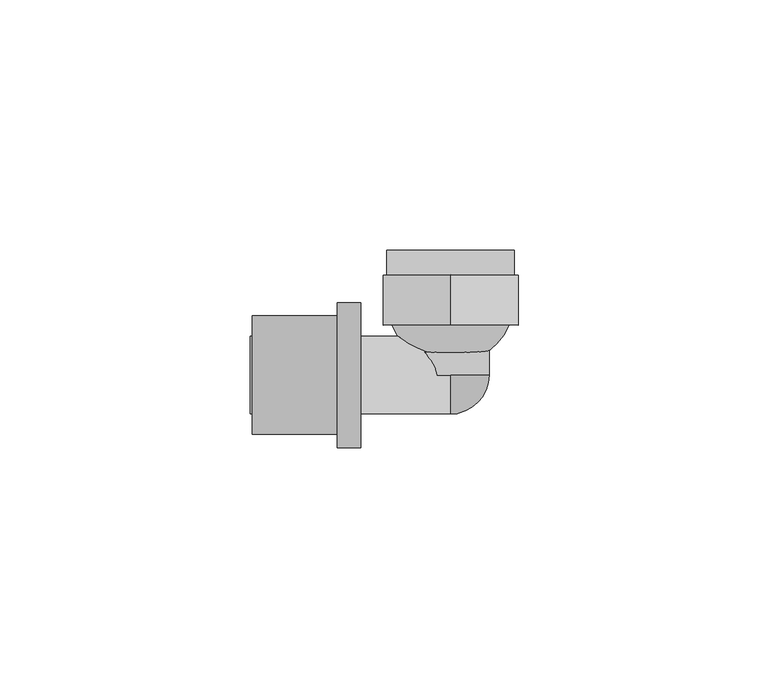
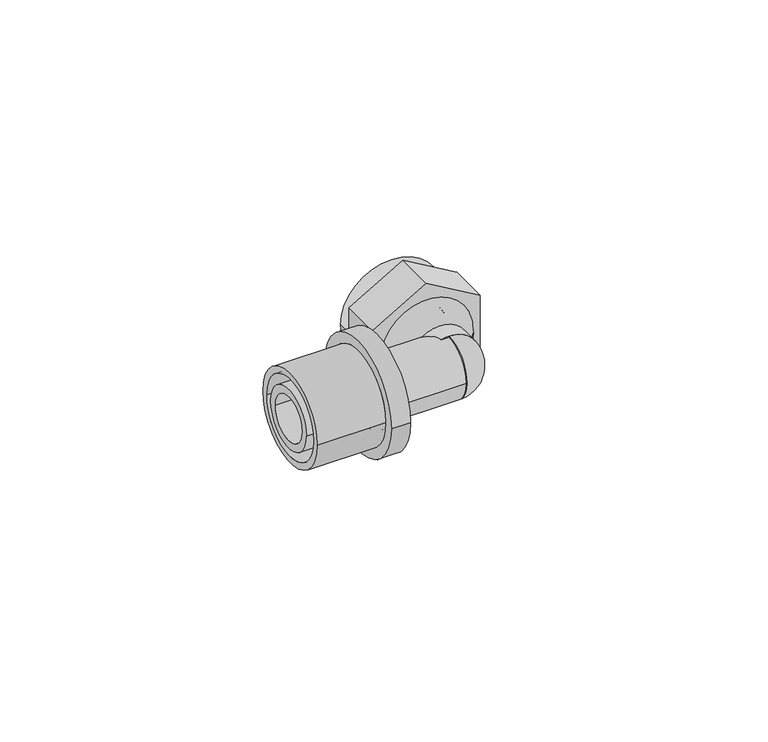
"""IFC4 building model written with IfcOpenShell, lengths in millimetres: pipe fitting geometry, FASTLOC_Elbow with female thread EX+ : FSL A internal AT."""

from ifc_helpers import new_model, si_unit, point, frame, origin, origin_2d, place, context, project, spatial, polyline, circle_curve, ellipse_curve, trimmed, segment, composite_curve, outline, extrude, source, transform, mapped, element, save
from ifc_brep_helpers import plane_surface, cylinder_surface, revolved_surface, advanced_brep


def pipe_fitting_ad4eddfe(model_context):
    return source(origin(), model_context, "Body", "SolidModel", [
        advanced_brep(
        [(-22.7, -14.5, 0.0), (-22.7, 14.5, 0.0), (-18.0, 14.5, 0.0), (-18.0, -14.5, 0.0), (-39.7, -11.85, 0.0), (-39.7, 11.85, 0.0), (-22.7, 11.85, 0.0), (-22.7, -11.85, 0.0), (-18.0, -10.15, 0.0), (-18.0, 10.15, 0.0), (-39.7, 10.15, 0.0), (-39.7, -10.15, 0.0)],
        [
            (0, 1, circle_curve(frame((-22.7, 0.0, 0.0), z_axis=(1.0, 0.0, 0.0), x_axis=(0.0, 1.0, 0.0)), 14.5)),
            (1, 2),
            (2, 3, circle_curve(frame((-18.0, 0.0, 0.0), z_axis=(-1.0, 0.0, 0.0), x_axis=(0.0, 1.0, 0.0)), 14.5)),
            (3, 0),
            (4, 5, circle_curve(frame((-39.7, 0.0, 0.0), z_axis=(1.0, 0.0, 0.0), x_axis=(0.0, 1.0, 0.0)), 11.85)),
            (5, 6),
            (6, 7, circle_curve(frame((-22.7, 0.0, 0.0), z_axis=(-1.0, 0.0, 0.0), x_axis=(0.0, 1.0, 0.0)), 11.85)),
            (7, 4),
            (8, 9, circle_curve(frame((-18.0, 0.0, 0.0), z_axis=(1.0, 0.0, 0.0), x_axis=(0.0, 1.0, 0.0)), 10.15)),
            (9, 10),
            (10, 11, circle_curve(frame((-39.7, 0.0, 0.0), z_axis=(-1.0, 0.0, 0.0), x_axis=(0.0, 1.0, 0.0)), 10.15)),
            (11, 8),
            (1, 0, circle_curve(frame((-22.7, 0.0, 0.0), z_axis=(1.0, 0.0, 0.0), x_axis=(0.0, -1.0, 0.0)), 14.5)),
            (3, 2, circle_curve(frame((-18.0, 0.0, 0.0), z_axis=(-1.0, 0.0, 0.0), x_axis=(0.0, -1.0, 0.0)), 14.5)),
            (6, 7, circle_curve(frame((-22.7, 0.0, 0.0), z_axis=(1.0, 0.0, 0.0), x_axis=(0.0, -1.0, 0.0)), 11.85)),
            (5, 4, circle_curve(frame((-39.7, 0.0, 0.0), z_axis=(1.0, 0.0, 0.0), x_axis=(0.0, -1.0, 0.0)), 11.85)),
            (10, 11, circle_curve(frame((-39.7, 0.0, 0.0), z_axis=(1.0, 0.0, 0.0), x_axis=(0.0, -1.0, 0.0)), 10.15)),
            (9, 8, circle_curve(frame((-18.0, 0.0, 0.0), z_axis=(1.0, 0.0, 0.0), x_axis=(0.0, -1.0, 0.0)), 10.15)),
        ],
        [
            cylinder_surface(frame((-18.0, 0.0, 0.0), z_axis=(-1.0, 0.0, 0.0), x_axis=(0.0, 1.0, 0.0)), 14.5),
            cylinder_surface(frame((-18.0, 0.0, 0.0), z_axis=(-1.0, 0.0, 0.0), x_axis=(0.0, 1.0, 0.0)), 11.85),
            revolved_surface(polyline([(-39.7, 10.15, 0.0), (-18.0, 10.15, 0.0)]), (-18.0, 0.0, 0.0), (-1.0, 0.0, 0.0)),
            cylinder_surface(frame((-18.0, 0.0, 0.0), z_axis=(-1.0, 0.0, 0.0), x_axis=(0.0, -1.0, 0.0)), 14.5),
            plane_surface(frame((-22.7, 0.0, 0.0), z_axis=(-1.0, 0.0, 0.0), x_axis=(0.0, -1.0, 0.0))),
            cylinder_surface(frame((-18.0, 0.0, 0.0), z_axis=(-1.0, 0.0, 0.0), x_axis=(0.0, -1.0, 0.0)), 11.85),
            plane_surface(frame((-39.7, 0.0, 0.0), z_axis=(-1.0, 0.0, 0.0), x_axis=(0.0, -1.0, 0.0))),
            revolved_surface(polyline([(-39.7, -10.15, 0.0), (-18.0, -10.15, 0.0)]), (-18.0, 0.0, 0.0), (-1.0, 0.0, 0.0)),
            plane_surface(frame((-18.0, 0.0, 0.0), z_axis=(1.0, 0.0, 0.0), x_axis=(0.0, -1.0, 0.0))),
        ],
        [
            (0, [[1, 2, 3, 4]]),
            (1, [[5, 6, 7, 8]]),
            (2, [[9, 10, 11, 12]]),
            (3, [[13, -4, 14, -2]]),
            (4, [[-13, -1], [15, -7]]),
            (5, [[16, -8, -15, -6]]),
            (6, [[-16, -5], [17, -11]]),
            (7, [[18, -12, -17, -10]]),
            (8, [[-14, -3], [-18, -9]]),
        ],
    ),
        advanced_brep(
        [(0.0, 0.0, 7.75), (0.0, 0.0, 3.875), (0.0, -3.875, 0.0), (0.0, -7.75, 0.0), (0.0, 0.0, -7.75), (0.0, 0.0, -3.875)],
        [
            (0, 1),
            (1, 2, circle_curve(frame((0.0, 0.0, 0.0), z_axis=(1.0, 0.0, 0.0), x_axis=(0.0, 0.0, 1.0)), 3.875)),
            (2, 3),
            (3, 0, circle_curve(frame((0.0, 0.0, 0.0), z_axis=(-1.0, 0.0, 0.0), x_axis=(0.0, 0.0, 1.0)), 7.75)),
            (4, 3, circle_curve(frame((0.0, 0.0, 0.0), z_axis=(-1.0, 0.0, 0.0), x_axis=(0.0, 0.0, -1.0)), 7.75)),
            (2, 5, circle_curve(frame((0.0, 0.0, 0.0), z_axis=(1.0, 0.0, 0.0), x_axis=(0.0, 0.0, -1.0)), 3.875)),
            (5, 4),
            (5, 1, circle_curve(frame((0.0, 0.0, 0.0), z_axis=(0.0, -1.0, 0.0), x_axis=(0.0, 0.0, 1.0)), 3.875)),
            (0, 4, circle_curve(frame((0.0, 0.0, 0.0), z_axis=(0.0, 1.0, 0.0), x_axis=(0.0, 0.0, 1.0)), 7.75)),
        ],
        [
            plane_surface(frame((0.0, 0.0, 0.0), z_axis=(-1.0, 0.0, 0.0), x_axis=(0.0, 0.0, 1.0))),
            plane_surface(frame((0.0, 0.0, 0.0), z_axis=(-1.0, 0.0, 0.0), x_axis=(0.0, 0.0, -1.0))),
            plane_surface(frame((0.0, 0.0, 0.0), z_axis=(0.0, 1.0, 0.0), x_axis=(0.0, 0.0, 1.0))),
            revolved_surface(trimmed(ellipse_curve(frame((0.0, 0.0, 0.0), z_axis=(1.0, 0.0, 0.0), x_axis=(0.0, 0.0, 1.0)), 3.875, 3.875), [point((0.0, 0.0, 3.875))], [point((0.0, -3.875, 0.0))], True, "CARTESIAN"), (0.0, 0.0, 0.0), (0.0, 1.0, 0.0)),
            revolved_surface(trimmed(ellipse_curve(frame((0.0, 0.0, 0.0), z_axis=(-1.0, 0.0, 0.0), x_axis=(0.0, 0.0, 1.0)), 7.75, 7.75), [point((0.0, -7.75, 0.0))], [point((0.0, 0.0, 7.75))], True, "CARTESIAN"), (0.0, 0.0, 0.0), (0.0, 1.0, 0.0)),
        ],
        [
            (0, [[1, 2, 3, 4]]),
            (1, [[5, -3, 6, 7]]),
            (2, [[8, -1, 9, -7]]),
            (3, [[-2, -8, -6]]),
            (4, [[-9, -4, -5]]),
        ],
    ),
        extrude(outline(polyline([(-7.7942286, 13.5), (7.7942286, 13.5), (15.5884573, 0.0), (7.7942286, -13.5), (-7.7942286, -13.5), (-15.5884573, 0.0), (-7.7942286, 13.5)])), frame((0.0, 10.0, 0.0), z_axis=(0.0, 1.0, 0.0), x_axis=(0.0, 0.0, 1.0)), (0.0, 0.0, 1.0), 10.0),
        advanced_brep(
        [(0.5, 2.2598077, 0.0), (-0.5, 2.2598077, 0.0), (-12.75, 15.0, 0.0), (12.75, 15.0, 0.0), (0.5, 7.5166852, 0.0), (-0.5, 7.5166852, 0.0), (7.5, 15.0, 0.0), (-7.5, 15.0, 0.0), (7.5, 25.0, 0.0), (-7.5, 25.0, 0.0), (-12.75, 25.0, 0.0), (12.75, 25.0, 0.0)],
        [
            (0, 1, circle_curve(frame((0.0, 2.2598077, 0.0), z_axis=(0.0, 1.0, 0.0), x_axis=(-1.0, 0.0, 0.0)), 0.5)),
            (1, 2, circle_curve(frame((0.0, 15.0, 0.0), z_axis=(0.0, 0.0, -1.0), x_axis=(0.0, 1.0, 0.0)), 12.75)),
            (2, 3, circle_curve(frame((0.0, 15.0, 0.0), z_axis=(0.0, -1.0, 0.0), x_axis=(-1.0, 0.0, 0.0)), 12.75)),
            (3, 0, circle_curve(frame((0.0, 15.0, 0.0), z_axis=(0.0, 0.0, -1.0), x_axis=(0.0, 1.0, 0.0)), 12.75)),
            (4, 5, circle_curve(frame((0.0, 7.5166852, 0.0), z_axis=(0.0, 1.0, 0.0), x_axis=(-1.0, 0.0, 0.0)), 0.5)),
            (5, 1),
            (0, 4),
            (6, 7, circle_curve(frame((0.0, 15.0, 0.0), z_axis=(0.0, 1.0, 0.0), x_axis=(-1.0, 0.0, 0.0)), 7.5)),
            (7, 5, circle_curve(frame((0.0, 15.0, 0.0), z_axis=(0.0, 0.0, 1.0), x_axis=(0.0, 1.0, 0.0)), 7.5)),
            (4, 6, circle_curve(frame((0.0, 15.0, 0.0), z_axis=(0.0, 0.0, 1.0), x_axis=(0.0, 1.0, 0.0)), 7.5)),
            (8, 9, circle_curve(frame((0.0, 25.0, 0.0), z_axis=(0.0, 1.0, 0.0), x_axis=(-1.0, 0.0, 0.0)), 7.5)),
            (9, 7),
            (6, 8),
            (2, 10),
            (10, 11, circle_curve(frame((0.0, 25.0, 0.0), z_axis=(0.0, -1.0, 0.0), x_axis=(-1.0, 0.0, 0.0)), 12.75)),
            (11, 3),
            (1, 0, circle_curve(frame((0.0, 2.2598077, 0.0), z_axis=(0.0, 1.0, 0.0), x_axis=(1.0, 0.0, 0.0)), 0.5)),
            (3, 2, circle_curve(frame((0.0, 15.0, 0.0), z_axis=(0.0, -1.0, 0.0), x_axis=(1.0, 0.0, 0.0)), 12.75)),
            (5, 4, circle_curve(frame((0.0, 7.5166852, 0.0), z_axis=(0.0, 1.0, 0.0), x_axis=(1.0, 0.0, 0.0)), 0.5)),
            (7, 6, circle_curve(frame((0.0, 15.0, 0.0), z_axis=(0.0, 1.0, 0.0), x_axis=(1.0, 0.0, 0.0)), 7.5)),
            (9, 8, circle_curve(frame((0.0, 25.0, 0.0), z_axis=(0.0, 1.0, 0.0), x_axis=(1.0, 0.0, 0.0)), 7.5)),
            (10, 11, circle_curve(frame((0.0, 25.0, 0.0), z_axis=(0.0, 1.0, 0.0), x_axis=(1.0, 0.0, 0.0)), 12.75)),
        ],
        [
            revolved_surface(trimmed(ellipse_curve(frame((0.0, 15.0, 0.0), z_axis=(0.0, 0.0, 1.0), x_axis=(0.0, 1.0, 0.0)), 12.75, 12.75), [point((-12.75, 15.0, 0.0))], [point((-0.5, 2.2598077, 0.0))], True, "CARTESIAN"), (0.0, 10.0, 0.0), (0.0, -1.0, 0.0)),
            revolved_surface(polyline([(-0.5, 2.2598076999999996, 0.0), (-0.5, 7.5166852, 0.0)]), (0.0, 10.0, 0.0), (0.0, -1.0, 0.0)),
            revolved_surface(trimmed(ellipse_curve(frame((0.0, 15.0, 0.0), z_axis=(0.0, 0.0, -1.0), x_axis=(0.0, 1.0, 0.0)), 7.5, 7.5), [point((-0.5, 7.5166852, 0.0))], [point((-7.5, 15.0, 0.0))], True, "CARTESIAN"), (0.0, 10.0, 0.0), (0.0, -1.0, 0.0)),
            revolved_surface(polyline([(-7.5, 15.0, 0.0), (-7.5, 25.0, 0.0)]), (0.0, 10.0, 0.0), (0.0, -1.0, 0.0)),
            cylinder_surface(frame((0.0, 10.0, 0.0), z_axis=(0.0, -1.0, 0.0), x_axis=(-1.0, 0.0, 0.0)), 12.75),
            revolved_surface(trimmed(ellipse_curve(frame((0.0, 15.0, 0.0), z_axis=(0.0, 0.0, -1.0), x_axis=(0.0, 1.0, 0.0)), 12.75, 12.75), [point((12.75, 15.0, 0.0))], [point((0.5, 2.2598077, 0.0))], True, "CARTESIAN"), (0.0, 10.0, 0.0), (0.0, -1.0, 0.0)),
            revolved_surface(polyline([(0.5, 2.2598076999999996, 0.0), (0.5, 7.5166852, 0.0)]), (0.0, 10.0, 0.0), (0.0, -1.0, 0.0)),
            revolved_surface(trimmed(ellipse_curve(frame((0.0, 15.0, 0.0), z_axis=(0.0, 0.0, 1.0), x_axis=(0.0, 1.0, 0.0)), 7.5, 7.5), [point((0.5, 7.5166852, 0.0))], [point((7.5, 15.0, 0.0))], True, "CARTESIAN"), (0.0, 10.0, 0.0), (0.0, -1.0, 0.0)),
            revolved_surface(polyline([(7.5, 15.0, 0.0), (7.5, 25.0, 0.0)]), (0.0, 10.0, 0.0), (0.0, -1.0, 0.0)),
            plane_surface(frame((0.0, 25.0, 0.0), z_axis=(0.0, 1.0, 0.0), x_axis=(1.0, 0.0, 0.0))),
            cylinder_surface(frame((0.0, 10.0, 0.0), z_axis=(0.0, -1.0, 0.0), x_axis=(1.0, 0.0, 0.0)), 12.75),
        ],
        [
            (0, [[1, 2, 3, 4]]),
            (1, [[5, 6, -1, 7]]),
            (2, [[8, 9, -5, 10]]),
            (3, [[11, 12, -8, 13]]),
            (4, [[-3, 14, 15, 16]]),
            (5, [[17, -4, 18, -2]]),
            (6, [[19, -7, -17, -6]]),
            (7, [[20, -10, -19, -9]]),
            (8, [[21, -13, -20, -12]]),
            (9, [[22, -15], [-21, -11]]),
            (10, [[-18, -16, -22, -14]]),
        ],
    ),
        extrude(outline(composite_curve([segment(trimmed(circle_curve(origin_2d(), 7.75), [point((0.0, -7.75))], [point((0.0, 7.75))], False, "CARTESIAN"), True, "CONTINUOUS"), segment(trimmed(circle_curve(origin_2d(), 7.75), [point((0.0, 7.75))], [point((0.0, -7.75))], False, "CARTESIAN"), True, "CONTINUOUS")], self_intersect=False), holes=[composite_curve([segment(trimmed(circle_curve(origin_2d(), 5.75), [point((0.0, -5.75))], [point((0.0, 5.75))], True, "CARTESIAN"), True, "CONTINUOUS"), segment(trimmed(circle_curve(origin_2d(), 5.75), [point((0.0, 5.75))], [point((0.0, -5.75))], True, "CARTESIAN"), True, "CONTINUOUS")], self_intersect=False)]), frame((0.0, 0.0, 0.0), z_axis=(0.0, 1.0, 0.0), x_axis=(0.0, 0.0, 1.0)), (0.0, 0.0, 1.0), 10.0),
        advanced_brep(
        [(-22.7, 7.75, 0.0), (-22.7, -7.75, 0.0), (-40.1, -7.75, 0.0), (-40.1, 7.75, 0.0), (-20.0, 8.8, 0.0), (-20.0, -8.8, 0.0), (-22.7, -8.8, 0.0), (-22.7, 8.8, 0.0), (0.0, 7.75, 0.0), (0.0, -7.75, 0.0), (-20.0, -7.75, 0.0), (-20.0, 7.75, 0.0), (-40.1, 5.75, 0.0), (-40.1, -5.75, 0.0), (0.0, -5.75, 0.0), (0.0, 5.75, 0.0)],
        [
            (0, 1, circle_curve(frame((-22.7, 0.0, 0.0), z_axis=(-1.0, 0.0, 0.0), x_axis=(0.0, -1.0, 0.0)), 7.75)),
            (1, 2),
            (2, 3, circle_curve(frame((-40.1, 0.0, 0.0), z_axis=(1.0, 0.0, 0.0), x_axis=(0.0, -1.0, 0.0)), 7.75)),
            (3, 0),
            (4, 5, circle_curve(frame((-20.0, 0.0, 0.0), z_axis=(-1.0, 0.0, 0.0), x_axis=(0.0, -1.0, 0.0)), 8.8)),
            (5, 6),
            (6, 7, circle_curve(frame((-22.7, 0.0, 0.0), z_axis=(1.0, 0.0, 0.0), x_axis=(0.0, -1.0, 0.0)), 8.8)),
            (7, 4),
            (8, 9, circle_curve(frame((0.0, 0.0, 0.0), z_axis=(-1.0, 0.0, 0.0), x_axis=(0.0, -1.0, 0.0)), 7.75)),
            (9, 10),
            (10, 11, circle_curve(frame((-20.0, 0.0, 0.0), z_axis=(1.0, 0.0, 0.0), x_axis=(0.0, -1.0, 0.0)), 7.75)),
            (11, 8),
            (12, 13, circle_curve(frame((-40.1, 0.0, 0.0), z_axis=(-1.0, 0.0, 0.0), x_axis=(0.0, -1.0, 0.0)), 5.75)),
            (13, 14),
            (14, 15, circle_curve(frame((0.0, 0.0, 0.0), z_axis=(1.0, 0.0, 0.0), x_axis=(0.0, -1.0, 0.0)), 5.75)),
            (15, 12),
            (2, 3, circle_curve(frame((-40.1, 0.0, 0.0), z_axis=(-1.0, 0.0, 0.0), x_axis=(0.0, 1.0, 0.0)), 7.75)),
            (12, 13, circle_curve(frame((-40.1, 0.0, 0.0), z_axis=(1.0, 0.0, 0.0), x_axis=(0.0, 1.0, 0.0)), 5.75)),
            (1, 0, circle_curve(frame((-22.7, 0.0, 0.0), z_axis=(-1.0, 0.0, 0.0), x_axis=(0.0, 1.0, 0.0)), 7.75)),
            (6, 7, circle_curve(frame((-22.7, 0.0, 0.0), z_axis=(-1.0, 0.0, 0.0), x_axis=(0.0, 1.0, 0.0)), 8.8)),
            (5, 4, circle_curve(frame((-20.0, 0.0, 0.0), z_axis=(-1.0, 0.0, 0.0), x_axis=(0.0, 1.0, 0.0)), 8.8)),
            (10, 11, circle_curve(frame((-20.0, 0.0, 0.0), z_axis=(-1.0, 0.0, 0.0), x_axis=(0.0, 1.0, 0.0)), 7.75)),
            (9, 8, circle_curve(frame((0.0, 0.0, 0.0), z_axis=(-1.0, 0.0, 0.0), x_axis=(0.0, 1.0, 0.0)), 7.75)),
            (14, 15, circle_curve(frame((0.0, 0.0, 0.0), z_axis=(-1.0, 0.0, 0.0), x_axis=(0.0, 1.0, 0.0)), 5.75)),
        ],
        [
            cylinder_surface(frame((0.0, 0.0, 0.0), z_axis=(1.0, 0.0, 0.0), x_axis=(0.0, -1.0, 0.0)), 7.75),
            cylinder_surface(frame((0.0, 0.0, 0.0), z_axis=(1.0, 0.0, 0.0), x_axis=(0.0, -1.0, 0.0)), 8.8),
            revolved_surface(polyline([(0.0, -5.75, 0.0), (-40.1, -5.75, 0.0)]), (0.0, 0.0, 0.0), (1.0, 0.0, 0.0)),
            plane_surface(frame((-40.1, 0.0, 0.0), z_axis=(-1.0, 0.0, 0.0), x_axis=(0.0, 1.0, 0.0))),
            cylinder_surface(frame((0.0, 0.0, 0.0), z_axis=(1.0, 0.0, 0.0), x_axis=(0.0, 1.0, 0.0)), 7.75),
            plane_surface(frame((-22.7, 0.0, 0.0), z_axis=(-1.0, 0.0, 0.0), x_axis=(0.0, 1.0, 0.0))),
            cylinder_surface(frame((0.0, 0.0, 0.0), z_axis=(1.0, 0.0, 0.0), x_axis=(0.0, 1.0, 0.0)), 8.8),
            plane_surface(frame((-20.0, 0.0, 0.0), z_axis=(1.0, 0.0, 0.0), x_axis=(0.0, 1.0, 0.0))),
            plane_surface(frame((0.0, 0.0, 0.0), z_axis=(1.0, 0.0, 0.0), x_axis=(0.0, 1.0, 0.0))),
            revolved_surface(polyline([(0.0, 5.75, 0.0), (-40.1, 5.75, 0.0)]), (0.0, 0.0, 0.0), (1.0, 0.0, 0.0)),
        ],
        [
            (0, [[1, 2, 3, 4]]),
            (1, [[5, 6, 7, 8]]),
            (0, [[9, 10, 11, 12]]),
            (2, [[13, 14, 15, 16]]),
            (3, [[17, -3], [18, -13]]),
            (4, [[19, -4, -17, -2]]),
            (5, [[20, -7], [-19, -1]]),
            (6, [[21, -8, -20, -6]]),
            (7, [[-21, -5], [22, -11]]),
            (4, [[23, -12, -22, -10]]),
            (8, [[-23, -9], [24, -15]]),
            (9, [[-18, -16, -24, -14]]),
        ],
    ),
    ])


if __name__ == "__main__":
    model = new_model("IFC4")
    model_context = context("Model", 3, world=origin())
    ifc_project = project(units=[si_unit("LENGTHUNIT", "METRE", prefix="MILLI")], contexts=[model_context])
    site = spatial("IfcSite", under=ifc_project)
    building = spatial("IfcBuilding", under=site)
    placement = place(None, origin())
    pipe_fitting_shape = pipe_fitting_ad4eddfe(model_context)
    element("IfcPipeFitting", 1, ObjectType="FASTLOC_Elbow with female thread EX+ : FSL A internal AT", at=placement, inside=building, context=model_context, shape_type="MappedRepresentation", body=[
        mapped(pipe_fitting_shape, transform((0.0, 0.0, 0.0), x_axis=(1.0, 0.0, 0.0), y_axis=(0.0, 1.0, 0.0), z_axis=(0.0, 0.0, 1.0))),
    ])
    save(model, "model.ifc")
